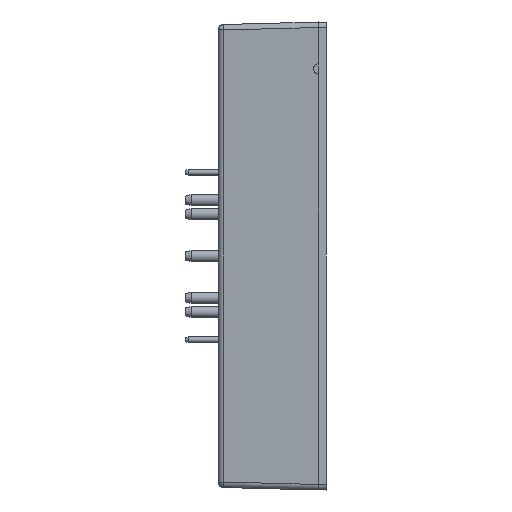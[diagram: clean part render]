
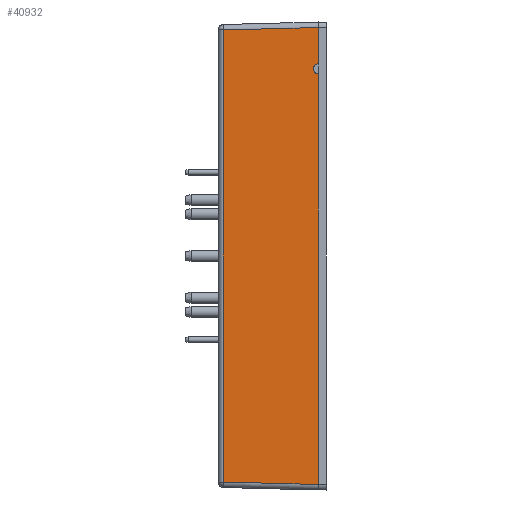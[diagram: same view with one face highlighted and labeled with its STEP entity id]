
A CAD part, left-side view. The second image highlights one B-rep face of the part: STEP entity #40932.
In plain terms, the highlighted planar face has unit normal (-1, 0.026, 0).
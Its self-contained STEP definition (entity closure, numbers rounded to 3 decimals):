
#391 = CARTESIAN_POINT ( 'NONE',  ( -58.4, 0., 34.9 ) ) ;
#808 = ORIENTED_EDGE ( 'NONE', *, *, #2596, .T. ) ;
#1197 = VECTOR ( 'NONE', #28883, 1000. ) ;
#2340 = ORIENTED_EDGE ( 'NONE', *, *, #31430, .F. ) ;
#2596 = EDGE_CURVE ( 'NONE', #13523, #20993, #33397, .T. ) ;
#2794 = CARTESIAN_POINT ( 'NONE',  ( -58.4, 0., 33.1 ) ) ;
#3461 = EDGE_CURVE ( 'NONE', #20993, #25106, #9710, .T. ) ;
#3669 = VECTOR ( 'NONE', #46512, 1000. ) ;
#4948 = VECTOR ( 'NONE', #60189, 1000. ) ;
#4970 = CARTESIAN_POINT ( 'NONE',  ( -58.4, 0., 34.9 ) ) ;
#7263 = CARTESIAN_POINT ( 'NONE',  ( -57.949, 17.226, -41.049 ) ) ;
#8040 = EDGE_CURVE ( 'NONE', #25106, #51433, #25023, .T. ) ;
#8583 = LINE ( 'NONE', #12318, #35604 ) ;
#9710 = LINE ( 'NONE', #36774, #4948 ) ;
#10974 = DIRECTION ( 'NONE',  ( 0., 0., 1. ) ) ;
#11698 = AXIS2_PLACEMENT_3D ( 'NONE', #54880, #40878, #31176 ) ;
#12318 = CARTESIAN_POINT ( 'NONE',  ( -58.401, -0.026, 41.501 ) ) ;
#13523 = VERTEX_POINT ( 'NONE', #7263 ) ;
#19456 = LINE ( 'NONE', #43438, #1197 ) ;
#20526 = ORIENTED_EDGE ( 'NONE', *, *, #40139, .T. ) ;
#20993 = VERTEX_POINT ( 'NONE', #57757 ) ;
#22381 = VECTOR ( 'NONE', #47070, 1000. ) ;
#25023 =( BOUNDED_CURVE ( )  B_SPLINE_CURVE ( 3, ( #46604, #51199, #33526, #4970 ),
 .UNSPECIFIED., .F., .F. ) 
 B_SPLINE_CURVE_WITH_KNOTS ( ( 4, 4 ),
 ( 1.571, 4.712 ),
 .UNSPECIFIED. ) 
 CURVE ( )  GEOMETRIC_REPRESENTATION_ITEM ( )  RATIONAL_B_SPLINE_CURVE ( ( 1., 0.333, 0.333, 1. ) ) 
 REPRESENTATION_ITEM ( '' )  );
#25106 = VERTEX_POINT ( 'NONE', #2794 ) ;
#25316 = CIRCLE ( 'NONE', #11698, 1. ) ;
#25482 = ORIENTED_EDGE ( 'NONE', *, *, #29628, .T. ) ;
#27369 = CARTESIAN_POINT ( 'NONE',  ( -57.949, 17.226, 41.049 ) ) ;
#28883 = DIRECTION ( 'NONE',  ( 0., 0., -1. ) ) ;
#29628 = EDGE_CURVE ( 'NONE', #49490, #58492, #8583, .T. ) ;
#29822 = FACE_OUTER_BOUND ( 'NONE', #43948, .T. ) ;
#29876 = CARTESIAN_POINT ( 'NONE',  ( -58.4, 0., 41.5 ) ) ;
#31176 = DIRECTION ( 'NONE',  ( 0., 0., 1. ) ) ;
#31430 = EDGE_CURVE ( 'NONE', #46963, #51433, #55360, .T. ) ;
#32719 = EDGE_CURVE ( 'NONE', #58492, #13523, #19456, .T. ) ;
#33397 = LINE ( 'NONE', #39981, #22381 ) ;
#33526 = CARTESIAN_POINT ( 'NONE',  ( -58.353, 1.8, 34.9 ) ) ;
#34518 = ORIENTED_EDGE ( 'NONE', *, *, #8040, .T. ) ;
#35604 = VECTOR ( 'NONE', #36531, 1000. ) ;
#36531 = DIRECTION ( 'NONE',  ( 0.026, 0.999, -0.026 ) ) ;
#36774 = CARTESIAN_POINT ( 'NONE',  ( -58.4, 0., -42.5 ) ) ;
#38835 = ORIENTED_EDGE ( 'NONE', *, *, #32719, .T. ) ;
#39981 = CARTESIAN_POINT ( 'NONE',  ( -58.342, 2.197, -41.443 ) ) ;
#40139 = EDGE_CURVE ( 'NONE', #46963, #49490, #25316, .T. ) ;
#40878 = DIRECTION ( 'NONE',  ( 0., 1., 0. ) ) ;
#40932 = ADVANCED_FACE ( 'NONE', ( #29822 ), #53852, .T. ) ;
#43438 = CARTESIAN_POINT ( 'NONE',  ( -57.949, 17.226, -42.023 ) ) ;
#43948 = EDGE_LOOP ( 'NONE', ( #51561, #34518, #2340, #20526, #25482, #38835, #808 ) ) ;
#46512 = DIRECTION ( 'NONE',  ( 0., 0., -1. ) ) ;
#46604 = CARTESIAN_POINT ( 'NONE',  ( -58.4, 0., 33.1 ) ) ;
#46963 = VERTEX_POINT ( 'NONE', #29876 ) ;
#47070 = DIRECTION ( 'NONE',  ( -0.026, -0.999, -0.026 ) ) ;
#48353 = CARTESIAN_POINT ( 'NONE',  ( -58.4, 0., 42.5 ) ) ;
#49136 = CARTESIAN_POINT ( 'NONE',  ( -58.4, 0., 41.5 ) ) ;
#49490 = VERTEX_POINT ( 'NONE', #49136 ) ;
#51199 = CARTESIAN_POINT ( 'NONE',  ( -58.353, 1.8, 33.1 ) ) ;
#51433 = VERTEX_POINT ( 'NONE', #391 ) ;
#51561 = ORIENTED_EDGE ( 'NONE', *, *, #3461, .T. ) ;
#52631 = DIRECTION ( 'NONE',  ( -1., 0.026, 0. ) ) ;
#53852 = PLANE ( 'NONE',  #59364 ) ;
#54880 = CARTESIAN_POINT ( 'NONE',  ( -57.4, 0., 41.5 ) ) ;
#55360 = LINE ( 'NONE', #59920, #3669 ) ;
#57757 = CARTESIAN_POINT ( 'NONE',  ( -58.4, 0., -41.5 ) ) ;
#58492 = VERTEX_POINT ( 'NONE', #27369 ) ;
#59364 = AXIS2_PLACEMENT_3D ( 'NONE', #48353, #52631, #10974 ) ;
#59920 = CARTESIAN_POINT ( 'NONE',  ( -58.4, 0., 42.5 ) ) ;
#60189 = DIRECTION ( 'NONE',  ( 0., 0., 1. ) ) ;
